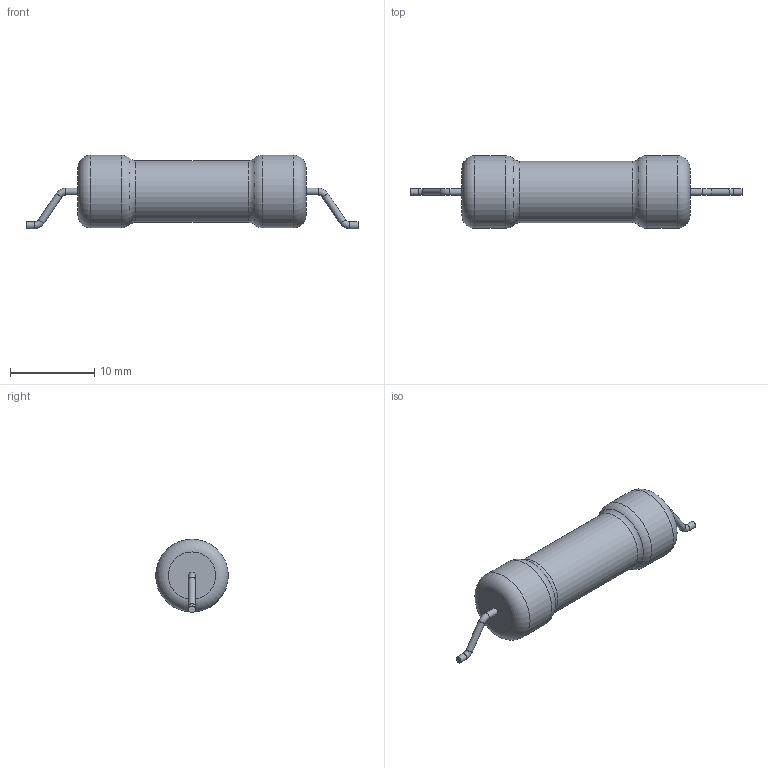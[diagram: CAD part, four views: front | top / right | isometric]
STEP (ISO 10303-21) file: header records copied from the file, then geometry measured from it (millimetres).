
FILE_DESCRIPTION(('STEP AP203'), '1');
FILE_NAME('ﾑ2-29ﾂ-2-ﾍ(3)', '', ('UNSPECIFIED'), ('UNSPECIFIED'), 'ASCON STEP Converter 1.6', 'ASCON Math Kernel', '');
FILE_SCHEMA(('CONFIG_CONTROL_DESIGN'));
Length unit declared in the file: millimetre
Bounding box: 39.3 x 8.6 x 8.7 mm (x, y, z)
Volume: 1311 mm3; surface area: 797 mm2
Topology: 1 solids, 1 shells, 23 faces, 41 edges, 22 vertices
Faces by surface type: torus 10, cylinder 9, plane 4
Full cylindrical faces by diameter (mm): 0.8 x6, 7.307 x1, 8.6 x2
Entity records: 682 total; most frequent: DIRECTION 92, CARTESIAN_POINT 68, AXIS2_PLACEMENT_3D 46, EDGE_LOOP 44, ORIENTED_EDGE 44, FACE_OUTER_BOUND 38, COLOUR_RGB 24, FILL_AREA_STYLE_COLOUR 24
